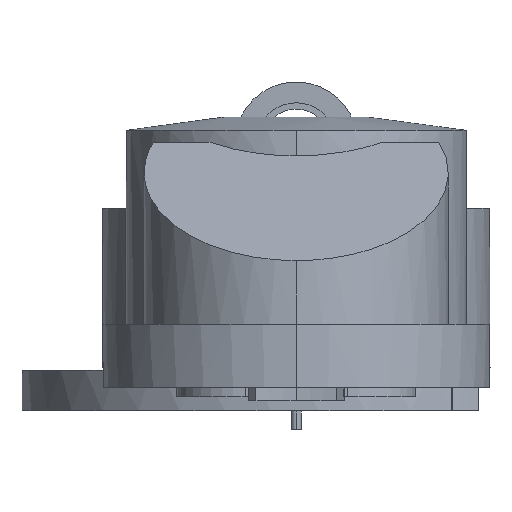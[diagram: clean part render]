
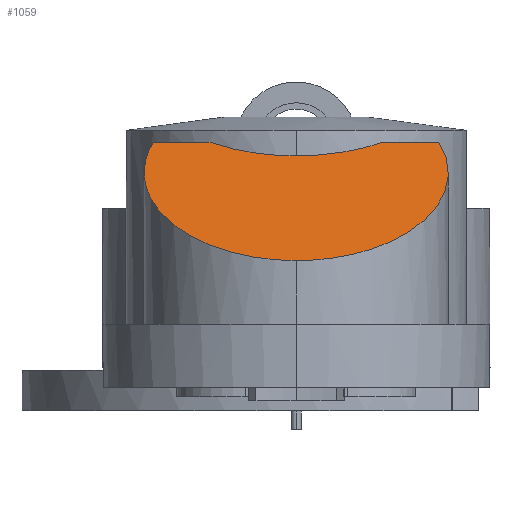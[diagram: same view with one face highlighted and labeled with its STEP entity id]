
A CAD part, left-side view. The second image highlights one B-rep face of the part: STEP entity #1059.
In plain terms, the highlighted planar face has unit normal (-0.5, 0, 0.866).
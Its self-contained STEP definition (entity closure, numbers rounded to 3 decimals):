
#1059 = ADVANCED_FACE ( 'NONE', ( #4293 ), #4273, .F. ) ;
#1060 = EDGE_LOOP ( 'NONE', ( #1061, #11685, #11680, #11679, #11675, #11688 ) ) ;
#1061 = ORIENTED_EDGE ( 'NONE', *, *, #11682, .F. ) ;
#1065 = EDGE_CURVE ( 'NONE', #1538, #1066, #4298, .T. ) ;
#1066 = VERTEX_POINT ( 'NONE', #4300 ) ;
#1134 = VERTEX_POINT ( 'NONE', #4654 ) ;
#1137 = EDGE_CURVE ( 'NONE', #1066, #1134, #4652, .T. ) ;
#1218 = VERTEX_POINT ( 'NONE', #4897 ) ;
#1253 = EDGE_CURVE ( 'NONE', #1218, #1258, #5051, .T. ) ;
#1258 = VERTEX_POINT ( 'NONE', #5088 ) ;
#1538 = VERTEX_POINT ( 'NONE', #9336 ) ;
#1542 = VERTEX_POINT ( 'NONE', #9358 ) ;
#1545 = EDGE_CURVE ( 'NONE', #1542, #1538, #9356, .T. ) ;
#4267 = DIRECTION ( 'NONE',  ( -0.866, 0., -0.5 ) ) ;
#4268 = DIRECTION ( 'NONE',  ( 0.5, 0., -0.866 ) ) ;
#4269 = CARTESIAN_POINT ( 'NONE',  ( -1525., -167.5, 292. ) ) ;
#4270 = AXIS2_PLACEMENT_3D ( 'NONE', #4269, #4268, #4267 ) ;
#4273 = PLANE ( 'NONE',  #4270 ) ;
#4293 = FACE_OUTER_BOUND ( 'NONE', #1060, .T. ) ;
#4294 = CARTESIAN_POINT ( 'NONE',  ( -1247.872, 140.068, 452. ) ) ;
#4295 = CARTESIAN_POINT ( 'NONE',  ( -1355.311, 180.053, 389.97 ) ) ;
#4296 = CARTESIAN_POINT ( 'NONE',  ( -1449.453, 114.638, 335.617 ) ) ;
#4297 = CARTESIAN_POINT ( 'NONE',  ( -1449.453, 0., 335.617 ) ) ;
#4298 =( BOUNDED_CURVE ( )  B_SPLINE_CURVE ( 3, ( #4297, #4296, #4295, #4294 ),
 .UNSPECIFIED., .F., .T. ) 
 B_SPLINE_CURVE_WITH_KNOTS ( ( 4, 4 ),
 ( 0., 1.927 ),
 .UNSPECIFIED. ) 
 CURVE ( )  GEOMETRIC_REPRESENTATION_ITEM ( )  RATIONAL_B_SPLINE_CURVE ( ( 1., 0.714, 0.714, 1. ) ) 
 REPRESENTATION_ITEM ( '' )  );
#4300 = CARTESIAN_POINT ( 'NONE',  ( -1247.872, 140.068, 452. ) ) ;
#4649 = DIRECTION ( 'NONE',  ( 0., -1., 0. ) ) ;
#4650 = VECTOR ( 'NONE', #4649, 1000. ) ;
#4651 = CARTESIAN_POINT ( 'NONE',  ( -1247.872, -167.5, 452. ) ) ;
#4652 = LINE ( 'NONE', #4651, #4650 ) ;
#4654 = CARTESIAN_POINT ( 'NONE',  ( -1247.872, 85.625, 452. ) ) ;
#4897 = CARTESIAN_POINT ( 'NONE',  ( -1271.424, 0., 438.402 ) ) ;
#5047 = CARTESIAN_POINT ( 'NONE',  ( -1247.872, -85.625, 452. ) ) ;
#5048 = CARTESIAN_POINT ( 'NONE',  ( -1263.381, -59.566, 443.046 ) ) ;
#5049 = CARTESIAN_POINT ( 'NONE',  ( -1271.424, -30.326, 438.402 ) ) ;
#5050 = CARTESIAN_POINT ( 'NONE',  ( -1271.424, 0., 438.402 ) ) ;
#5051 =( BOUNDED_CURVE ( )  B_SPLINE_CURVE ( 3, ( #5050, #5049, #5048, #5047 ),
 .UNSPECIFIED., .F., .T. ) 
 B_SPLINE_CURVE_WITH_KNOTS ( ( 4, 4 ),
 ( 0., 0.537 ),
 .UNSPECIFIED. ) 
 CURVE ( )  GEOMETRIC_REPRESENTATION_ITEM ( )  RATIONAL_B_SPLINE_CURVE ( ( 1., 0.976, 0.976, 1. ) ) 
 REPRESENTATION_ITEM ( '' )  );
#5088 = CARTESIAN_POINT ( 'NONE',  ( -1247.872, -85.625, 452. ) ) ;
#9336 = CARTESIAN_POINT ( 'NONE',  ( -1449.453, 0., 335.617 ) ) ;
#9356 =( BOUNDED_CURVE ( )  B_SPLINE_CURVE ( 3, ( #9408, #9407, #9406, #9405 ),
 .UNSPECIFIED., .F., .T. ) 
 B_SPLINE_CURVE_WITH_KNOTS ( ( 4, 4 ),
 ( 4.356, 6.283 ),
 .UNSPECIFIED. ) 
 CURVE ( )  GEOMETRIC_REPRESENTATION_ITEM ( )  RATIONAL_B_SPLINE_CURVE ( ( 1., 0.714, 0.714, 1. ) ) 
 REPRESENTATION_ITEM ( '' )  );
#9358 = CARTESIAN_POINT ( 'NONE',  ( -1247.872, -140.068, 452. ) ) ;
#9405 = CARTESIAN_POINT ( 'NONE',  ( -1449.453, 0., 335.617 ) ) ;
#9406 = CARTESIAN_POINT ( 'NONE',  ( -1449.453, -114.638, 335.617 ) ) ;
#9407 = CARTESIAN_POINT ( 'NONE',  ( -1355.311, -180.053, 389.97 ) ) ;
#9408 = CARTESIAN_POINT ( 'NONE',  ( -1247.872, -140.068, 452. ) ) ;
#10005 =( BOUNDED_CURVE ( )  B_SPLINE_CURVE ( 3, ( #10054, #10053, #10052, #10051 ),
 .UNSPECIFIED., .F., .T. ) 
 B_SPLINE_CURVE_WITH_KNOTS ( ( 4, 4 ),
 ( 5.746, 6.283 ),
 .UNSPECIFIED. ) 
 CURVE ( )  GEOMETRIC_REPRESENTATION_ITEM ( )  RATIONAL_B_SPLINE_CURVE ( ( 1., 0.976, 0.976, 1. ) ) 
 REPRESENTATION_ITEM ( '' )  );
#10006 = DIRECTION ( 'NONE',  ( 0., 1., 0. ) ) ;
#10007 = VECTOR ( 'NONE', #10006, 1000. ) ;
#10008 = CARTESIAN_POINT ( 'NONE',  ( -1247.872, -114.569, 452. ) ) ;
#10013 = LINE ( 'NONE', #10008, #10007 ) ;
#10051 = CARTESIAN_POINT ( 'NONE',  ( -1271.424, 0., 438.402 ) ) ;
#10052 = CARTESIAN_POINT ( 'NONE',  ( -1271.424, 30.326, 438.402 ) ) ;
#10053 = CARTESIAN_POINT ( 'NONE',  ( -1263.381, 59.566, 443.046 ) ) ;
#10054 = CARTESIAN_POINT ( 'NONE',  ( -1247.872, 85.625, 452. ) ) ;
#11675 = ORIENTED_EDGE ( 'NONE', *, *, #11676, .T. ) ;
#11676 = EDGE_CURVE ( 'NONE', #1542, #1258, #10013, .T. ) ;
#11679 = ORIENTED_EDGE ( 'NONE', *, *, #1545, .F. ) ;
#11680 = ORIENTED_EDGE ( 'NONE', *, *, #1065, .F. ) ;
#11682 = EDGE_CURVE ( 'NONE', #1134, #1218, #10005, .T. ) ;
#11685 = ORIENTED_EDGE ( 'NONE', *, *, #1137, .F. ) ;
#11688 = ORIENTED_EDGE ( 'NONE', *, *, #1253, .F. ) ;
